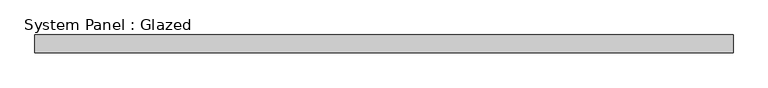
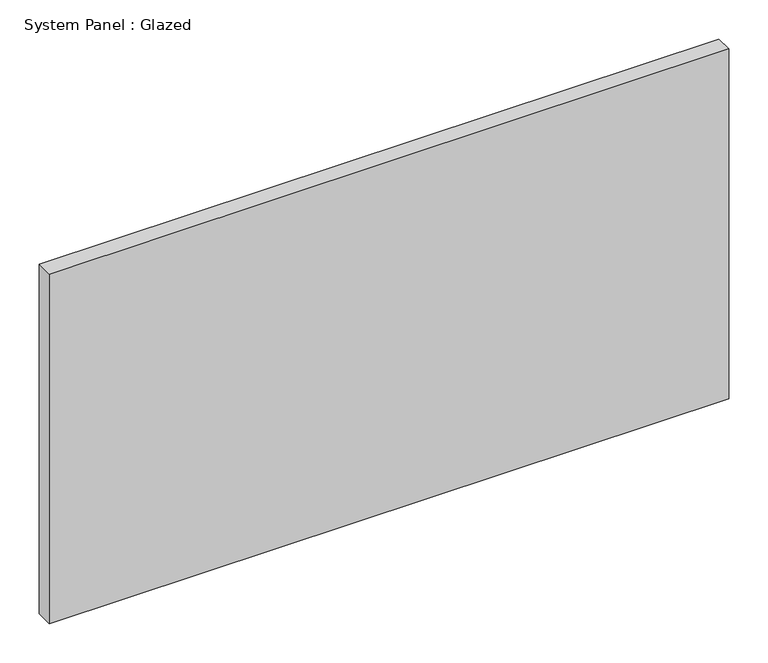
"""IFC4 building model written with IfcOpenShell, lengths in millimetres: plate geometry, System Panel : Glazed."""

from ifc_helpers import new_model, si_unit, origin, origin_with_axes, place, context, project, spatial, polyline, outline, extrude, source, transform, mapped, element, save


def system_panel_glazed_f780a407(model_context):
    return source(origin(), model_context, "Body", "SweptSolid", [
        extrude(outline(polyline([(502.2628531, 19.05), (-502.2628531, 19.05), (-502.2628531, 44.45), (502.2628531, 44.45), (502.2628531, 19.05)])), origin_with_axes(), (0.0, 0.0, 1.0), 546.1),
    ])


if __name__ == "__main__":
    model = new_model("IFC4")
    model_context = context("Model", 3, world=origin())
    ifc_project = project(units=[si_unit("LENGTHUNIT", "METRE", prefix="MILLI")], contexts=[model_context])
    site = spatial("IfcSite", under=ifc_project)
    building = spatial("IfcBuilding", under=site)
    placement = place(None, origin())
    system_panel_glazed_shape = system_panel_glazed_f780a407(model_context)
    element("IfcPlate", 1, ObjectType="System Panel : Glazed", at=placement, inside=building, context=model_context, shape_type="MappedRepresentation", body=[
        mapped(system_panel_glazed_shape, transform((0.0, 0.0, 0.0), x_axis=(1.0, 0.0, 0.0), y_axis=(0.0, 1.0, 0.0), z_axis=(0.0, 0.0, 1.0))),
    ])
    save(model, "model.ifc")
